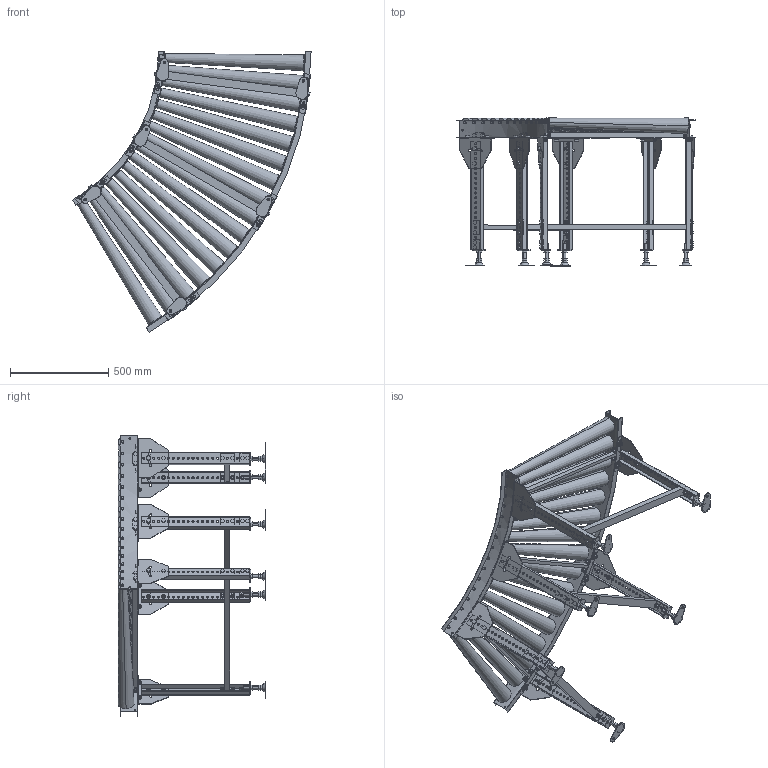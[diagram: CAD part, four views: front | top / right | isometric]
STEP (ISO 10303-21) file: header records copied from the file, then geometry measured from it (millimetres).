
FILE_DESCRIPTION (( 'STEP AP214' ), '1' );
FILE_NAME ('MRT-C9-700-75-60.STEP', '2022-09-28T01:44:28', ( '' ), ( '' ), 'SwSTEP 2.0', 'SolidWorks 2017', '' );
FILE_SCHEMA (( 'AUTOMOTIVE_DESIGN' ));
Length unit declared in the file: millimetre
Products named in the file (1): MRT-C9-700-75-60
Bounding box: 1210 x 750 x 1424.61 mm (x, y, z)
Volume: 42710411.7 mm3; surface area: 4871834.5 mm2
Topology: 28 solids, 58 shells, 3218 faces, 7716 edges, 4856 vertices
Faces by surface type: plane 2298, cylinder 876, cone 44
Entity records: 135444 total; most frequent: CARTESIAN_POINT 22766, DIRECTION 16450, ORIENTED_EDGE 15432, EDGE_CURVE 7716, AXIS2_PLACEMENT_3D 5737, LINE 4976, VECTOR 4976, VERTEX_POINT 4856
